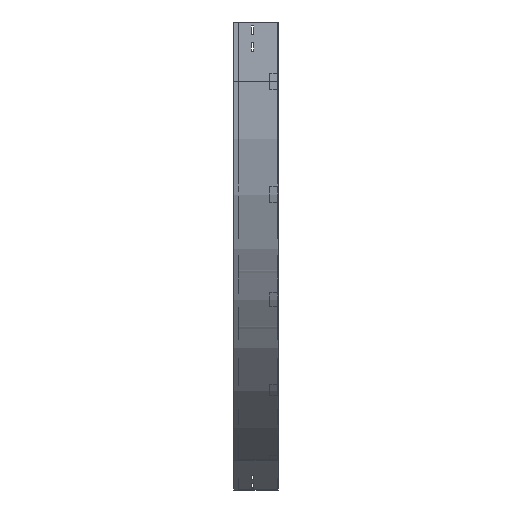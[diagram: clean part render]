
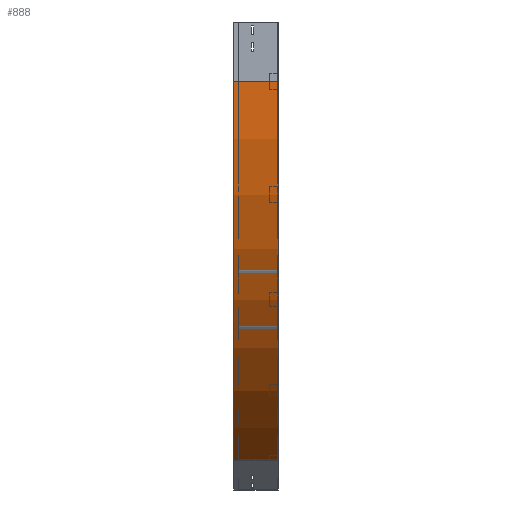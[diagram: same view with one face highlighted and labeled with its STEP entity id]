
A CAD part, left-side view. The second image highlights one B-rep face of the part: STEP entity #888.
In plain terms, the highlighted cylindrical face has radius 1100 mm (diameter 2200 mm), a partial arc.
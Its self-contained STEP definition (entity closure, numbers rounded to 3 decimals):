
#37 = ORIENTED_EDGE ( 'NONE', *, *, #3203, .T. ) ;
#75 = CARTESIAN_POINT ( 'NONE',  ( 1100., 0., -150. ) ) ;
#389 = DIRECTION ( 'NONE',  ( 0., -1., 0. ) ) ;
#463 = CARTESIAN_POINT ( 'NONE',  ( 550., 0., -1102.628 ) ) ;
#530 = DIRECTION ( 'NONE',  ( 0., -1., 0. ) ) ;
#696 = VERTEX_POINT ( 'NONE', #782 ) ;
#739 = VECTOR ( 'NONE', #1997, 1000. ) ;
#782 = CARTESIAN_POINT ( 'NONE',  ( 0., 0., -150. ) ) ;
#806 = LINE ( 'NONE', #1142, #3667 ) ;
#827 = VERTEX_POINT ( 'NONE', #2675 ) ;
#888 = ADVANCED_FACE ( 'NONE', ( #975 ), #2095, .T. ) ;
#975 = FACE_OUTER_BOUND ( 'NONE', #2400, .T. ) ;
#984 = AXIS2_PLACEMENT_3D ( 'NONE', #2023, #530, #1723 ) ;
#1142 = CARTESIAN_POINT ( 'NONE',  ( 0., 0., -150. ) ) ;
#1182 = CIRCLE ( 'NONE', #3480, 1100. ) ;
#1589 = DIRECTION ( 'NONE',  ( -1., 0., 0. ) ) ;
#1618 = ORIENTED_EDGE ( 'NONE', *, *, #1887, .F. ) ;
#1723 = DIRECTION ( 'NONE',  ( -1., 0., 0. ) ) ;
#1800 = AXIS2_PLACEMENT_3D ( 'NONE', #75, #1841, #2419 ) ;
#1841 = DIRECTION ( 'NONE',  ( 0., -1., 0. ) ) ;
#1887 = EDGE_CURVE ( 'NONE', #3287, #696, #806, .T. ) ;
#1997 = DIRECTION ( 'NONE',  ( 0., -1., 0. ) ) ;
#2023 = CARTESIAN_POINT ( 'NONE',  ( 1100., 112.5, -150. ) ) ;
#2095 = CYLINDRICAL_SURFACE ( 'NONE', #1800, 1100. ) ;
#2217 = EDGE_CURVE ( 'NONE', #696, #3196, #1182, .T. ) ;
#2269 = EDGE_CURVE ( 'NONE', #827, #3196, #3437, .T. ) ;
#2400 = EDGE_LOOP ( 'NONE', ( #3689, #1618, #37, #3547 ) ) ;
#2419 = DIRECTION ( 'NONE',  ( 0., 0., -1. ) ) ;
#2675 = CARTESIAN_POINT ( 'NONE',  ( 550., 112.5, -1102.628 ) ) ;
#2874 = CARTESIAN_POINT ( 'NONE',  ( 550., 0., -1102.628 ) ) ;
#3068 = CARTESIAN_POINT ( 'NONE',  ( 1100., 0., -150. ) ) ;
#3169 = CIRCLE ( 'NONE', #984, 1100. ) ;
#3188 = DIRECTION ( 'NONE',  ( 0., -1., 0. ) ) ;
#3196 = VERTEX_POINT ( 'NONE', #2874 ) ;
#3203 = EDGE_CURVE ( 'NONE', #3287, #827, #3169, .T. ) ;
#3287 = VERTEX_POINT ( 'NONE', #3659 ) ;
#3437 = LINE ( 'NONE', #463, #739 ) ;
#3480 = AXIS2_PLACEMENT_3D ( 'NONE', #3068, #389, #1589 ) ;
#3547 = ORIENTED_EDGE ( 'NONE', *, *, #2269, .T. ) ;
#3659 = CARTESIAN_POINT ( 'NONE',  ( 0., 112.5, -150. ) ) ;
#3667 = VECTOR ( 'NONE', #3188, 1000. ) ;
#3689 = ORIENTED_EDGE ( 'NONE', *, *, #2217, .F. ) ;
